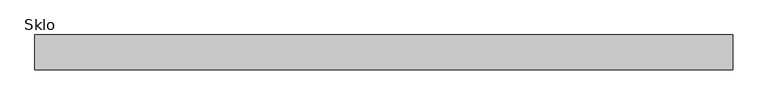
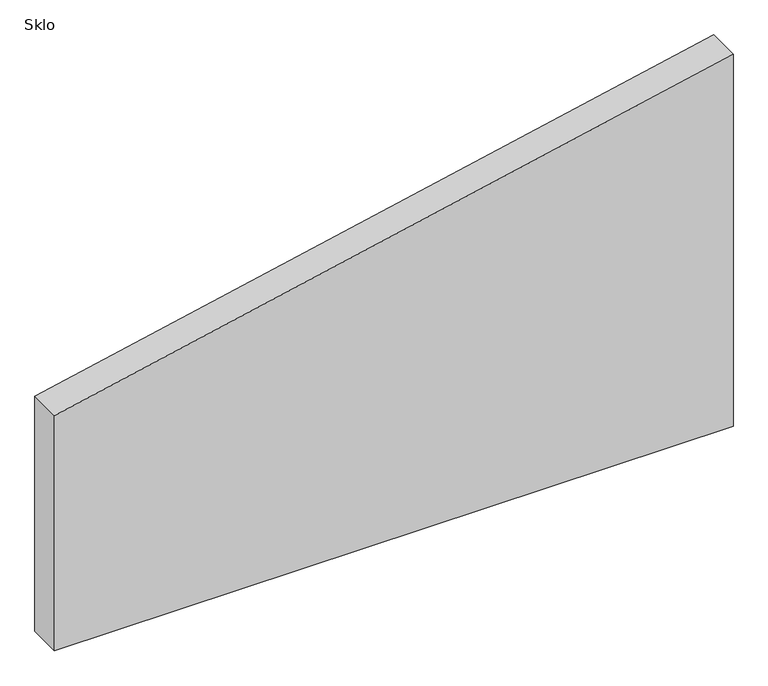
"""IFC4 building model written with IfcOpenShell, lengths in millimetres: plate geometry, Systémový panel : Sklo."""

import ifcopenshell
import ifcopenshell.guid

model = None  # the IFC model being written
_history = None  # IfcOwnerHistory: only IFC2X3 demands one
_inside = {}  # id of a spatial element -> (the spatial element, [elements in it])
_under = {}  # id of a project, library or spatial element -> (it, [spatial elements below it])
_declared = {}  # id of a project -> (the project, [libraries it declares])
_typed = {}  # id of a type object -> (the type object, [elements of that type])
_made_of = {}  # id of a material, layer set ... -> (it, [elements and type objects made of it])


def new_model(schema):
    """Start an empty IFC model of exactly this schema.

    Asked for "IFC4X3", IfcOpenShell would pick the latest addendum, in which some entities
    have other attributes; the version numbers below select the first issue.
    IFC2X3 requires an IfcOwnerHistory on every rooted entity: one is made here for all.
    """
    global model, _history
    if schema == "IFC4X3":
        model = ifcopenshell.file(schema_version=(4, 3, 0, 0))
    else:
        model = ifcopenshell.file(schema=schema)
    _inside.clear()
    _under.clear()
    _declared.clear()
    _typed.clear()
    _made_of.clear()
    _history = None
    if model.schema == "IFC2X3":
        org = make("IfcOrganization", Name="unknown")
        user = make(
            "IfcPersonAndOrganization",
            ThePerson=make("IfcPerson", FamilyName="unknown"),
            TheOrganization=org,
        )
        app = make(
            "IfcApplication",
            ApplicationDeveloper=org,
            Version="unknown",
            ApplicationFullName="unknown",
            ApplicationIdentifier="unknown",
        )
        _history = make(
            "IfcOwnerHistory",
            OwningUser=user,
            OwningApplication=app,
            ChangeAction="ADDED",
            CreationDate=0,
        )
    return model


def make(cls, **values):
    """One entity of the class cls with the attributes given. An attribute that is None is left unset."""
    return model.create_entity(
        cls, **{name: value for name, value in values.items() if value is not None}
    )


def rooted(cls, **values):
    """An entity with a GlobalId (a new one), such as an element, a storey or a relation."""
    return make(cls, GlobalId=ifcopenshell.guid.new(), OwnerHistory=_history, **values)


def si_unit(unit_type, name, prefix=None):
    """IfcSIUnit, for example si_unit("LENGTHUNIT", "METRE", prefix="MILLI")."""
    return make("IfcSIUnit", UnitType=unit_type, Prefix=prefix, Name=name)


def assignment(units):
    """IfcUnitAssignment: the units of a project."""
    return None if units is None else make("IfcUnitAssignment", Units=units)


def point(xyz):
    """IfcCartesianPoint."""
    return None if xyz is None else make("IfcCartesianPoint", Coordinates=xyz)


def direction(xyz):
    """IfcDirection."""
    return None if xyz is None else make("IfcDirection", DirectionRatios=xyz)


def frame(location, z_axis=None, x_axis=None):
    """IfcAxis2Placement3D, a coordinate frame: its origin and axes. An axis left out is left unset."""
    return make(
        "IfcAxis2Placement3D",
        Location=point(location),
        Axis=direction(z_axis),
        RefDirection=direction(x_axis),
    )


def origin():
    """The frame at (0, 0, 0) with its axes left unset."""
    return frame((0.0, 0.0, 0.0))


def place(relative_to, where):
    """IfcLocalPlacement: puts the frame where relative to a parent placement (None: the world)."""
    return make(
        "IfcLocalPlacement", PlacementRelTo=relative_to, RelativePlacement=where
    )


def context(
    kind, dimensions, precision=None, world=None, true_north=None, identifier=None
):
    """IfcGeometricRepresentationContext, for example the 3D "Model" context."""
    return make(
        "IfcGeometricRepresentationContext",
        ContextIdentifier=identifier,
        ContextType=kind,
        CoordinateSpaceDimension=dimensions,
        Precision=precision,
        WorldCoordinateSystem=world,
        TrueNorth=true_north,
    )


def project(units=None, contexts=None):
    """IfcProject with its units and contexts."""
    return rooted(
        "IfcProject",
        Name="project",
        RepresentationContexts=contexts,
        UnitsInContext=assignment(units),
    )


def spatial(cls, under=None, at=None, **own):
    """A site, building, storey or space (cls), placed at a placement, below another one or the project."""
    s = rooted(cls, ObjectPlacement=at, **own)
    if under is not None:
        _under.setdefault(under.id(), (under, []))[1].append(s)
    return s


def polyline(points):
    """IfcPolyline through the points."""
    return make("IfcPolyline", Points=[point(p) for p in points])


def outline(outer, holes=None, kind="AREA"):
    """IfcArbitraryClosedProfileDef: a profile drawn as a closed curve; with holes, ...WithVoids."""
    if holes is None:
        return make("IfcArbitraryClosedProfileDef", ProfileType=kind, OuterCurve=outer)
    return make(
        "IfcArbitraryProfileDefWithVoids",
        ProfileType=kind,
        OuterCurve=outer,
        InnerCurves=holes,
    )


def extrude(swept, where, along, depth):
    """IfcExtrudedAreaSolid: the profile swept, set in the frame where, extruded along a direction by depth."""
    return make(
        "IfcExtrudedAreaSolid",
        SweptArea=swept,
        Position=where,
        ExtrudedDirection=direction(along),
        Depth=depth,
    )


def shape(context_of_items, identifier, shape_type, items):
    """IfcShapeRepresentation: the items that make up one representation, for example the "Body"."""
    return make(
        "IfcShapeRepresentation",
        ContextOfItems=context_of_items,
        RepresentationIdentifier=identifier,
        RepresentationType=shape_type,
        Items=items,
    )


def source(mapping_origin, context_of_items, identifier, shape_type, items):
    """IfcRepresentationMap: a shape defined once, which mapped items show again and again."""
    return make(
        "IfcRepresentationMap",
        MappingOrigin=mapping_origin,
        MappedRepresentation=shape(context_of_items, identifier, shape_type, items),
    )


def transform(
    local_origin,
    x_axis=None,
    y_axis=None,
    z_axis=None,
    scale=None,
    scale2=None,
    scale3=None,
    uniform=True,
):
    """IfcCartesianTransformationOperator3D, or its non-uniform kind. x_axis, y_axis, z_axis: its Axis1, 2, 3."""
    if uniform:
        return make(
            "IfcCartesianTransformationOperator3D",
            Axis1=direction(x_axis),
            Axis2=direction(y_axis),
            LocalOrigin=point(local_origin),
            Scale=scale,
            Axis3=direction(z_axis),
        )
    return make(
        "IfcCartesianTransformationOperator3DnonUniform",
        Axis1=direction(x_axis),
        Axis2=direction(y_axis),
        LocalOrigin=point(local_origin),
        Scale=scale,
        Axis3=direction(z_axis),
        Scale2=scale2,
        Scale3=scale3,
    )


def mapped(mapping_source, mapping_target):
    """IfcMappedItem: shows the shape of a source again, moved by a transform."""
    return make(
        "IfcMappedItem", MappingSource=mapping_source, MappingTarget=mapping_target
    )


def made_of(thing, what):
    """Note that an element or type object is made of a material, layer set ...; save() writes the relation."""
    if what is not None:
        _made_of.setdefault(what.id(), (what, []))[1].append(thing)
    return thing


def element(
    cls,
    number,
    at=None,
    inside=None,
    cuts=None,
    type_object=None,
    material=None,
    context=None,
    identifier="Body",
    shape_type=None,
    held_by="IfcProductDefinitionShape",
    body=None,
    shapes=None,
    **own,
):
    """One element of the class cls, such as IfcWall. Its Tag is "e" and its number.

    at: its placement. inside: the storey or other place that contains it. cuts: it is an
    opening in that element (IfcRelVoidsElement). A single representation is given by context,
    identifier, shape_type and body (its items); several are given by shapes. held_by: the class
    of the entity that holds the representations. save() writes the other relations.
    """
    e = rooted(cls, Tag="e%d" % number, ObjectPlacement=at, **own)
    if body is not None:
        shapes = [shape(context, identifier, shape_type, body)]
    if shapes is not None:
        e.Representation = make(held_by, Representations=shapes)
    if inside is not None:
        _inside.setdefault(inside.id(), (inside, []))[1].append(e)
    if cuts is not None:
        rooted(
            "IfcRelVoidsElement", RelatingBuildingElement=cuts, RelatedOpeningElement=e
        )
    if type_object is not None:
        _typed.setdefault(type_object.id(), (type_object, []))[1].append(e)
    return made_of(e, material)


def aggregate(whole, parts):
    """IfcRelAggregates: a whole, such as a stair, and the parts it consists of."""
    return rooted("IfcRelAggregates", RelatingObject=whole, RelatedObjects=parts)


def save(model, path):
    """Write the relations noted so far, then the file.

    IfcRelAggregates (storeys below a building ...), IfcRelContainedInSpatialStructure (elements
    in a storey), IfcRelDefinesByType, IfcRelAssociatesMaterial and IfcRelDeclares: one each for
    every whole, place, type object, material and project.
    """
    for whole, parts in _under.values():
        aggregate(whole, parts)
    for where, things in _inside.values():
        rooted(
            "IfcRelContainedInSpatialStructure",
            RelatedElements=things,
            RelatingStructure=where,
        )
    for kind, things in _typed.values():
        rooted("IfcRelDefinesByType", RelatedObjects=things, RelatingType=kind)
    for what, things in _made_of.values():
        rooted("IfcRelAssociatesMaterial", RelatedObjects=things, RelatingMaterial=what)
    for by, libraries in _declared.values():
        rooted("IfcRelDeclares", RelatingContext=by, RelatedDefinitions=libraries)
    model.write(path)


def sklo_d17d486e(model_context):
    return source(origin(), model_context, "Body", "SweptSolid", [
        extrude(outline(polyline([(0.0, -1000.0), (0.0, 1000.0), (1158.6300932, 1000.0), (733.5169698, -1000.0), (0.0, -1000.0)])), frame((0.0, 50.0, 0.0), z_axis=(0.0, 1.0, 0.0), x_axis=(0.0, 0.0, 1.0)), (0.0, 0.0, 1.0), 100.0),
    ])


if __name__ == "__main__":
    model = new_model("IFC4")
    model_context = context("Model", 3, world=origin())
    ifc_project = project(units=[si_unit("LENGTHUNIT", "METRE", prefix="MILLI")], contexts=[model_context])
    site = spatial("IfcSite", under=ifc_project)
    building = spatial("IfcBuilding", under=site)
    placement = place(None, origin())
    sklo_shape = sklo_d17d486e(model_context)
    element("IfcPlate", 1, ObjectType="Systémový panel : Sklo", at=placement, inside=building, context=model_context, shape_type="MappedRepresentation", body=[
        mapped(sklo_shape, transform((0.0, 0.0, 0.0), x_axis=(1.0, 0.0, 0.0), y_axis=(0.0, 1.0, 0.0), z_axis=(0.0, 0.0, 1.0))),
    ])
    save(model, "model.ifc")
